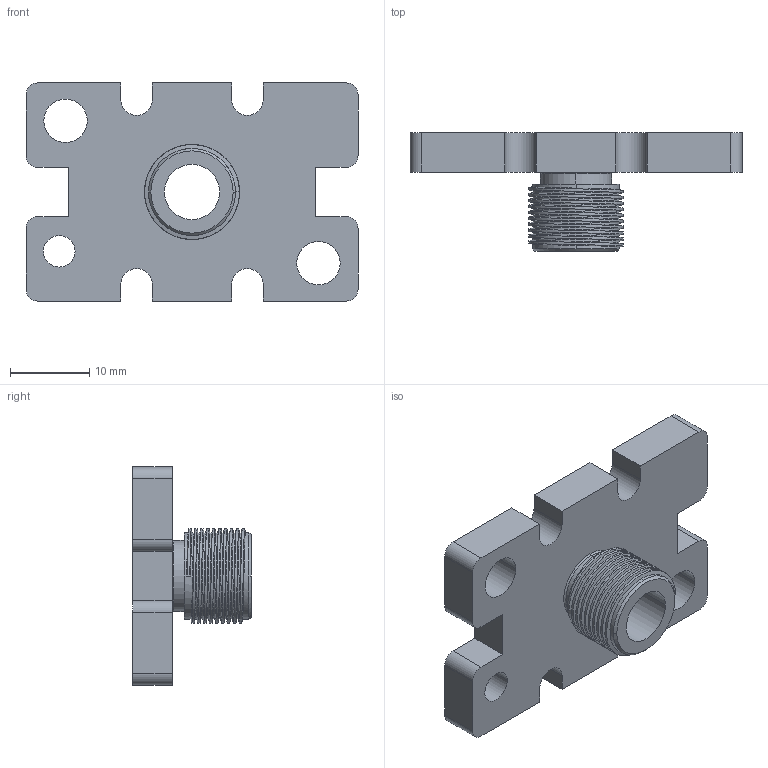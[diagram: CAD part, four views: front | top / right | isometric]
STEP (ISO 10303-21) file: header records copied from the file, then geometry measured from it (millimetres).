
FILE_DESCRIPTION (( 'STEP AP214' ), '1' );
FILE_NAME ('SMBM-20.STEP', '2019-11-06T07:59:26', ( '微软用户' ), ( '微软中国' ), 'SwSTEP 2.0', 'SolidWorks 2016', '' );
FILE_SCHEMA (( 'AUTOMOTIVE_DESIGN' ));
Length unit declared in the file: millimetre
Products named in the file (1): SMBM-20
Bounding box: 42 x 15 x 27.6 mm (x, y, z)
Volume: 5240.8 mm3; surface area: 4019.6 mm2
Topology: 1 solids, 1 shells, 79 faces, 223 edges, 148 vertices
Faces by surface type: cylinder 42, plane 30, bspline 5, cone 2
Entity records: 4046 total; most frequent: CARTESIAN_POINT 2050, ORIENTED_EDGE 446, DIRECTION 379, EDGE_CURVE 223, VERTEX_POINT 148, AXIS2_PLACEMENT_3D 127, VECTOR 125, LINE 125
